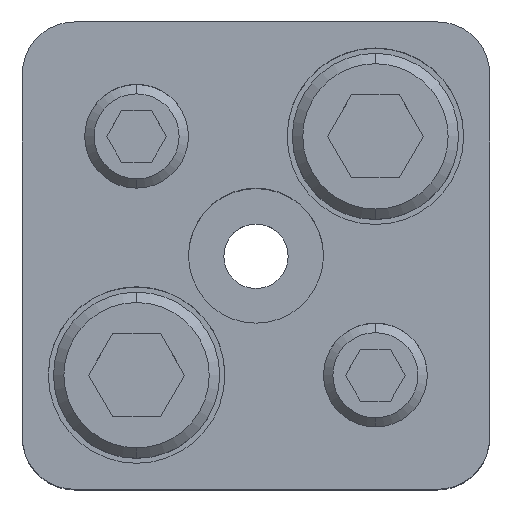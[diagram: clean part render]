
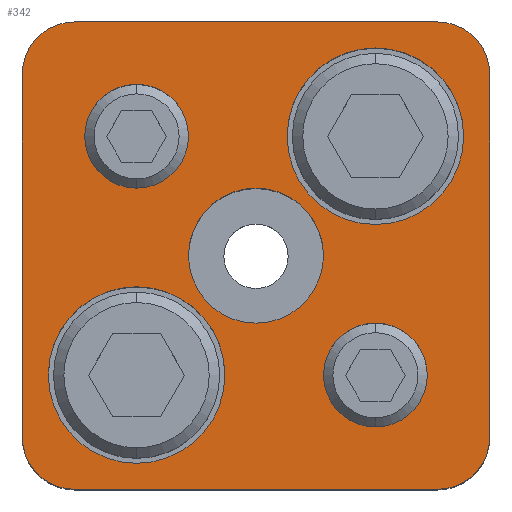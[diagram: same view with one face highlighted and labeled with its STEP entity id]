
A CAD part, top view. The second image highlights one B-rep face of the part: STEP entity #342.
In plain terms, the highlighted planar face has unit normal (0, 0, 1).
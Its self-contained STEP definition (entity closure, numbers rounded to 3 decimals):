
#169=PLANE('',#2888);
#244=FACE_BOUND('',#729,.T.);
#245=FACE_BOUND('',#730,.T.);
#246=FACE_BOUND('',#731,.T.);
#247=FACE_BOUND('',#732,.T.);
#248=FACE_BOUND('',#733,.T.);
#249=FACE_BOUND('',#734,.T.);
#342=ADVANCED_FACE('',(#244,#245,#246,#247,#248,#249),#169,.T.);
#729=EDGE_LOOP('',(#1539,#1540,#1541,#1542,#1543,#1544,#1545,#1546));
#730=EDGE_LOOP('',(#1547,#1548));
#731=EDGE_LOOP('',(#1549,#1550));
#732=EDGE_LOOP('',(#1551,#1552));
#733=EDGE_LOOP('',(#1553,#1554));
#734=EDGE_LOOP('',(#1555,#1556));
#907=LINE('',#4261,#1103);
#908=LINE('',#4265,#1104);
#909=LINE('',#4269,#1105);
#910=LINE('',#4273,#1106);
#1103=VECTOR('',#3427,1.);
#1104=VECTOR('',#3430,1.);
#1105=VECTOR('',#3433,1.);
#1106=VECTOR('',#3436,1.);
#1539=ORIENTED_EDGE('',*,*,#2357,.T.);
#1540=ORIENTED_EDGE('',*,*,#2358,.T.);
#1541=ORIENTED_EDGE('',*,*,#2359,.T.);
#1542=ORIENTED_EDGE('',*,*,#2360,.T.);
#1543=ORIENTED_EDGE('',*,*,#2361,.T.);
#1544=ORIENTED_EDGE('',*,*,#2362,.T.);
#1545=ORIENTED_EDGE('',*,*,#2363,.T.);
#1546=ORIENTED_EDGE('',*,*,#2364,.T.);
#1547=ORIENTED_EDGE('',*,*,#2365,.F.);
#1548=ORIENTED_EDGE('',*,*,#2366,.F.);
#1549=ORIENTED_EDGE('',*,*,#2367,.F.);
#1550=ORIENTED_EDGE('',*,*,#2368,.F.);
#1551=ORIENTED_EDGE('',*,*,#2343,.F.);
#1552=ORIENTED_EDGE('',*,*,#2339,.F.);
#1553=ORIENTED_EDGE('',*,*,#2337,.F.);
#1554=ORIENTED_EDGE('',*,*,#2333,.F.);
#1555=ORIENTED_EDGE('',*,*,#2369,.T.);
#1556=ORIENTED_EDGE('',*,*,#2370,.T.);
#2053=VERTEX_POINT('',#4209);
#2054=VERTEX_POINT('',#4210);
#2057=VERTEX_POINT('',#4222);
#2058=VERTEX_POINT('',#4223);
#2069=VERTEX_POINT('',#4259);
#2070=VERTEX_POINT('',#4260);
#2071=VERTEX_POINT('',#4262);
#2072=VERTEX_POINT('',#4264);
#2073=VERTEX_POINT('',#4266);
#2074=VERTEX_POINT('',#4268);
#2075=VERTEX_POINT('',#4270);
#2076=VERTEX_POINT('',#4272);
#2077=VERTEX_POINT('',#4275);
#2078=VERTEX_POINT('',#4276);
#2079=VERTEX_POINT('',#4279);
#2080=VERTEX_POINT('',#4280);
#2081=VERTEX_POINT('',#4283);
#2082=VERTEX_POINT('',#4284);
#2333=EDGE_CURVE('',#2053,#2054,#2635,.T.);
#2337=EDGE_CURVE('',#2054,#2053,#2637,.T.);
#2339=EDGE_CURVE('',#2057,#2058,#2639,.T.);
#2343=EDGE_CURVE('',#2058,#2057,#2641,.T.);
#2357=EDGE_CURVE('',#2069,#2070,#2651,.T.);
#2358=EDGE_CURVE('',#2070,#2071,#907,.T.);
#2359=EDGE_CURVE('',#2071,#2072,#2652,.T.);
#2360=EDGE_CURVE('',#2072,#2073,#908,.T.);
#2361=EDGE_CURVE('',#2073,#2074,#2653,.T.);
#2362=EDGE_CURVE('',#2074,#2075,#909,.T.);
#2363=EDGE_CURVE('',#2075,#2076,#2654,.T.);
#2364=EDGE_CURVE('',#2076,#2069,#910,.T.);
#2365=EDGE_CURVE('',#2077,#2078,#2655,.T.);
#2366=EDGE_CURVE('',#2078,#2077,#2656,.T.);
#2367=EDGE_CURVE('',#2079,#2080,#2657,.T.);
#2368=EDGE_CURVE('',#2080,#2079,#2658,.T.);
#2369=EDGE_CURVE('',#2081,#2082,#2659,.T.);
#2370=EDGE_CURVE('',#2082,#2081,#2660,.T.);
#2635=CIRCLE('',#2852,5.);
#2637=CIRCLE('',#2855,5.);
#2639=CIRCLE('',#2859,5.);
#2641=CIRCLE('',#2862,5.);
#2651=CIRCLE('',#2878,5.);
#2652=CIRCLE('',#2879,5.);
#2653=CIRCLE('',#2880,5.);
#2654=CIRCLE('',#2881,5.);
#2655=CIRCLE('',#2882,8.5);
#2656=CIRCLE('',#2883,8.5);
#2657=CIRCLE('',#2884,8.5);
#2658=CIRCLE('',#2885,8.5);
#2659=CIRCLE('',#2886,6.5);
#2660=CIRCLE('',#2887,6.5);
#2852=AXIS2_PLACEMENT_3D('',#4208,#3365,#3366);
#2855=AXIS2_PLACEMENT_3D('',#4217,#3373,#3374);
#2859=AXIS2_PLACEMENT_3D('',#4221,#3381,#3382);
#2862=AXIS2_PLACEMENT_3D('',#4230,#3389,#3390);
#2878=AXIS2_PLACEMENT_3D('',#4258,#3425,#3426);
#2879=AXIS2_PLACEMENT_3D('',#4263,#3428,#3429);
#2880=AXIS2_PLACEMENT_3D('',#4267,#3431,#3432);
#2881=AXIS2_PLACEMENT_3D('',#4271,#3434,#3435);
#2882=AXIS2_PLACEMENT_3D('',#4274,#3437,#3438);
#2883=AXIS2_PLACEMENT_3D('',#4277,#3439,#3440);
#2884=AXIS2_PLACEMENT_3D('',#4278,#3441,#3442);
#2885=AXIS2_PLACEMENT_3D('',#4281,#3443,#3444);
#2886=AXIS2_PLACEMENT_3D('',#4282,#3445,#3446);
#2887=AXIS2_PLACEMENT_3D('',#4285,#3447,#3448);
#2888=AXIS2_PLACEMENT_3D('',#4286,#3449,#3450);
#3365=DIRECTION('',(0.,0.,1.));
#3366=DIRECTION('',(-1.,0.,0.));
#3373=DIRECTION('',(0.,0.,1.));
#3374=DIRECTION('',(1.,0.,0.));
#3381=DIRECTION('',(0.,0.,1.));
#3382=DIRECTION('',(-1.,0.,0.));
#3389=DIRECTION('',(0.,0.,1.));
#3390=DIRECTION('',(1.,0.,0.));
#3425=DIRECTION('',(0.,0.,1.));
#3426=DIRECTION('',(-0.707,0.707,0.));
#3427=DIRECTION('',(0.,1.,0.));
#3428=DIRECTION('',(0.,0.,1.));
#3429=DIRECTION('',(-0.707,-0.707,0.));
#3430=DIRECTION('',(-1.,0.,0.));
#3431=DIRECTION('',(0.,0.,1.));
#3432=DIRECTION('',(0.707,-0.707,0.));
#3433=DIRECTION('',(0.,-1.,0.));
#3434=DIRECTION('',(0.,0.,1.));
#3435=DIRECTION('',(0.707,0.707,0.));
#3436=DIRECTION('',(1.,0.,0.));
#3437=DIRECTION('',(0.,0.,1.));
#3438=DIRECTION('',(1.,0.,0.));
#3439=DIRECTION('',(0.,0.,1.));
#3440=DIRECTION('',(-1.,0.,0.));
#3441=DIRECTION('',(0.,0.,1.));
#3442=DIRECTION('',(1.,0.,0.));
#3443=DIRECTION('',(0.,0.,1.));
#3444=DIRECTION('',(-1.,0.,0.));
#3445=DIRECTION('',(0.,0.,-1.));
#3446=DIRECTION('',(-1.,0.,0.));
#3447=DIRECTION('',(0.,0.,-1.));
#3448=DIRECTION('',(1.,0.,0.));
#3449=DIRECTION('',(0.,0.,1.));
#3450=DIRECTION('',(-1.,0.,0.));
#4208=CARTESIAN_POINT('',(11.5,-11.5,40.));
#4209=CARTESIAN_POINT('',(11.5,-16.5,40.));
#4210=CARTESIAN_POINT('',(11.5,-6.5,40.));
#4217=CARTESIAN_POINT('',(11.5,-11.5,40.));
#4221=CARTESIAN_POINT('',(-11.5,11.5,40.));
#4222=CARTESIAN_POINT('',(-11.5,6.5,40.));
#4223=CARTESIAN_POINT('',(-11.5,16.5,40.));
#4230=CARTESIAN_POINT('',(-11.5,11.5,40.));
#4258=CARTESIAN_POINT('',(17.5,-17.5,40.));
#4259=CARTESIAN_POINT('',(17.5,-22.5,40.));
#4260=CARTESIAN_POINT('',(22.5,-17.5,40.));
#4261=CARTESIAN_POINT('',(22.5,17.5,40.));
#4262=CARTESIAN_POINT('',(22.5,17.5,40.));
#4263=CARTESIAN_POINT('',(17.5,17.5,40.));
#4264=CARTESIAN_POINT('',(17.5,22.5,40.));
#4265=CARTESIAN_POINT('',(-17.5,22.5,40.));
#4266=CARTESIAN_POINT('',(-17.5,22.5,40.));
#4267=CARTESIAN_POINT('',(-17.5,17.5,40.));
#4268=CARTESIAN_POINT('',(-22.5,17.5,40.));
#4269=CARTESIAN_POINT('',(-22.5,17.5,40.));
#4270=CARTESIAN_POINT('',(-22.5,-17.5,40.));
#4271=CARTESIAN_POINT('',(-17.5,-17.5,40.));
#4272=CARTESIAN_POINT('',(-17.5,-22.5,40.));
#4273=CARTESIAN_POINT('',(-17.5,-22.5,40.));
#4274=CARTESIAN_POINT('',(11.5,11.5,40.));
#4275=CARTESIAN_POINT('',(11.5,20.,40.));
#4276=CARTESIAN_POINT('',(11.5,3.,40.));
#4277=CARTESIAN_POINT('',(11.5,11.5,40.));
#4278=CARTESIAN_POINT('',(-11.5,-11.5,40.));
#4279=CARTESIAN_POINT('',(-11.5,-3.,40.));
#4280=CARTESIAN_POINT('',(-11.5,-20.,40.));
#4281=CARTESIAN_POINT('',(-11.5,-11.5,40.));
#4282=CARTESIAN_POINT('',(0.,0.,40.));
#4283=CARTESIAN_POINT('',(0.,6.5,40.));
#4284=CARTESIAN_POINT('',(0.,-6.5,40.));
#4285=CARTESIAN_POINT('',(0.,0.,40.));
#4286=CARTESIAN_POINT('',(17.5,-22.5,40.));
